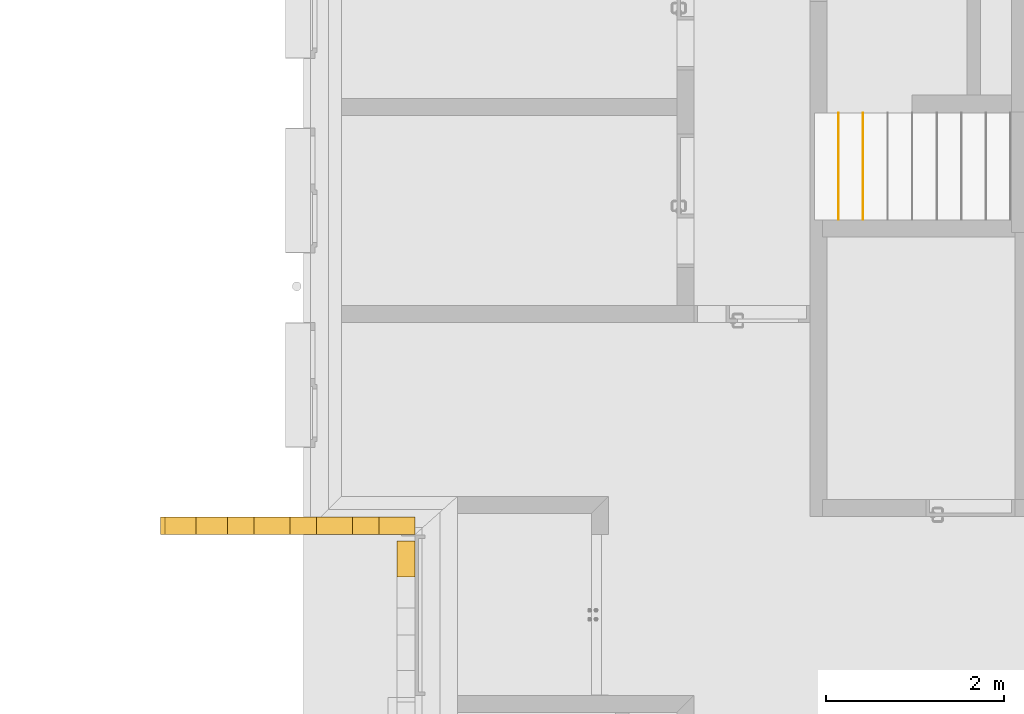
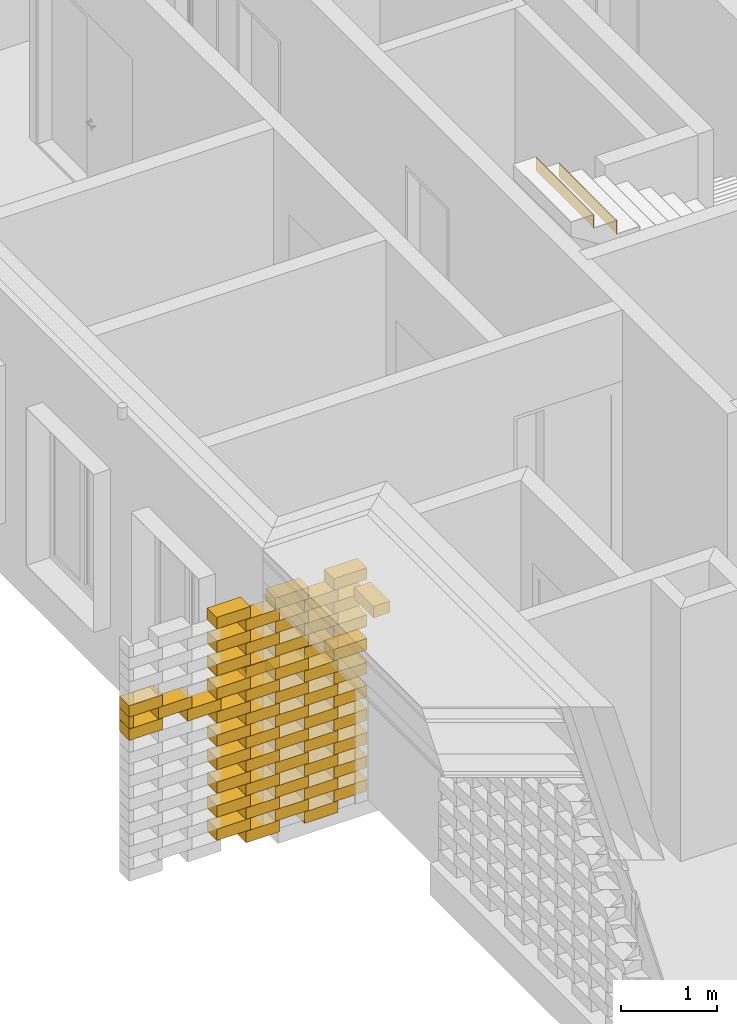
# One storey, part 59 of 62: 66 railings, 2 coverings, 1 element without a shape of its own.
"""IFC2X3 building model written with IfcOpenShell, lengths in millimetres."""

from ifc_helpers import new_model, entity, si_unit, converted_unit, derived_unit, money_unit, direction, frame, origin_with_axes, place, context, subcontext, project, spatial, polyline, outline, extrude, faceted_brep, material, type_object, element, aggregate, save


model = new_model("IFC2X3")

# Units and contexts
model_context = context("Model", 3, precision=0.01, world=origin_with_axes(), true_north=direction((0.0, 1.0)))
body_context = subcontext(model_context, "Body", "Model", "MODEL_VIEW")
ifc_project = project(units=[si_unit("LENGTHUNIT", "METRE", prefix="MILLI"), si_unit("AREAUNIT", "SQUARE_METRE"), si_unit("VOLUMEUNIT", "CUBIC_METRE"), converted_unit("PLANEANGLEUNIT", "DEGREE", entity("IfcPlaneAngleMeasure", 0.0174532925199), si_unit("PLANEANGLEUNIT", "RADIAN"), dimensions=[0, 0, 0, 0, 0, 0, 0]), si_unit("SOLIDANGLEUNIT", "STERADIAN"), money_unit("EUR"), converted_unit("TIMEUNIT", "Year", entity("IfcTimeMeasure", 31556926.0), si_unit("TIMEUNIT", "SECOND"), dimensions=[0, 0, 1, 0, 0, 0, 0]), si_unit("MASSUNIT", "GRAM", prefix="KILO"), si_unit("THERMODYNAMICTEMPERATUREUNIT", "DEGREE_CELSIUS"), si_unit("LUMINOUSINTENSITYUNIT", "LUMEN"), si_unit("ENERGYUNIT", "JOULE", prefix="MEGA"), derived_unit("THERMALCONDUCTANCEUNIT", [(si_unit("POWERUNIT", "WATT"), 1), (si_unit("LENGTHUNIT", "METRE"), -1), (si_unit("THERMODYNAMICTEMPERATUREUNIT", "KELVIN"), -1)]), derived_unit("SPECIFICHEATCAPACITYUNIT", [(si_unit("ENERGYUNIT", "JOULE"), 1), (si_unit("MASSUNIT", "GRAM", prefix="KILO"), -1), (si_unit("THERMODYNAMICTEMPERATUREUNIT", "KELVIN"), -1)]), derived_unit("MASSDENSITYUNIT", [(si_unit("MASSUNIT", "GRAM", prefix="KILO"), 1), (si_unit("VOLUMEUNIT", "CUBIC_METRE"), -1)])], contexts=[model_context])

# Site, building, storey
site_placement = place(None, origin_with_axes())
site = spatial("IfcSite", under=ifc_project, at=site_placement, Name="KIRDE 14, ELVA", CompositionType="ELEMENT")
building_placement = place(site_placement, origin_with_axes())
building = spatial("IfcBuilding", under=site, at=building_placement, Name="PPA ja Päästeameti ühishoone", CompositionType="ELEMENT")
storey_placement = place(building_placement, origin_with_axes())
storey = spatial("IfcBuildingStorey", under=building, at=storey_placement, Name="Esimene korrus", CompositionType="ELEMENT", Elevation=0.0)

# Railings
ifc_material_1 = material(Name="Air Space")
railing_type = type_object("IfcRailingType", Name="Air Space 200", PredefinedType="NOTDEFINED")
for number, where, z_axis, x_axis in (
    (1, (470.000147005, 11170.3967568, -45.0), (0.0, 0.0, 1.0), (-1.0, 2.32830643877e-09, 0.0)),
    (2, (120.000146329, 11170.3967568, 1590.0), (0.0, 0.0, 1.0), (-1.0, 0.0, 0.0)),
    (3, (470.000146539, 11170.3967568, 1440.0), (0.0, 0.0, 1.0), (-1.0, 2.32830643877e-09, 0.0)),
):
    element("IfcRailing", number, at=place(storey_placement, frame(where, z_axis=z_axis, x_axis=x_axis)), inside=storey, type_object=railing_type, material=ifc_material_1, Name="plokk", PredefinedType="NOTDEFINED", context=body_context, shape_type="SweptSolid", body=[
        extrude(outline(polyline([(0.0, 0.0), (399.999999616, 0.0), (399.999999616, 200.0), (0.0, 200.0), (0.0, 0.0)])), origin_with_axes(), (0.0, 0.0, 1.0), 145.0),
    ])
railing_1_placement = place(storey_placement, frame((-229.999853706, 11170.3967578, 2335.0), z_axis=(0.0, 0.0, 1.0), x_axis=(-1.0, -2.32830643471e-09, 0.0)))
element("IfcRailing", 4, at=railing_1_placement, inside=storey, type_object=railing_type, material=ifc_material_1, Name="plokk", PredefinedType="NOTDEFINED", context=body_context, shape_type="SweptSolid", body=[
    extrude(outline(polyline([(0.0, 0.0), (400.000000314, 0.0), (400.000000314, 200.0), (0.0, 200.0), (0.0, 0.0)])), origin_with_axes(), (0.0, 0.0, 1.0), 145.0),
])
railing_2_placement = place(storey_placement, frame((120.000146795, 11170.3967568, 1000.0), z_axis=(0.0, 0.0, 1.0), x_axis=(-1.0, 0.0, 0.0)))
element("IfcRailing", 5, at=railing_2_placement, inside=storey, type_object=railing_type, material=ifc_material_1, Name="plokk", PredefinedType="NOTDEFINED", context=body_context, shape_type="SweptSolid", body=[
    extrude(outline(polyline([(0.0, 0.0), (399.999999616, 0.0), (399.999999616, 200.0), (0.0, 200.0), (0.0, 0.0)])), origin_with_axes(), (0.0, 0.0, 1.0), 145.0),
])
for number, where, z_axis, x_axis in (
    (6, (-579.999852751, 11170.3967578, 400.0), (0.0, 0.0, 1.0), (-1.0, -2.32830643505e-09, 0.0)),
    (7, (-579.999852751, 11170.3967578, 1000.0), (0.0, 0.0, 1.0), (-1.0, -2.32830643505e-09, 0.0)),
    (8, (-579.999852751, 11170.3967578, 105.0), (0.0, 0.0, 1.0), (-1.0, -2.32830643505e-09, 0.0)),
    (9, (-579.999852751, 11170.3967578, 700.0), (0.0, 0.0, 1.0), (-1.0, -2.32830643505e-09, 0.0)),
):
    element("IfcRailing", number, at=place(storey_placement, frame(where, z_axis=z_axis, x_axis=x_axis)), inside=storey, type_object=railing_type, material=ifc_material_1, Name="plokk", PredefinedType="NOTDEFINED", context=body_context, shape_type="SweptSolid", body=[
        extrude(outline(polyline([(0.0, 0.0), (400.000000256, 0.0), (400.000000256, 200.0), (0.0, 200.0), (0.0, 0.0)])), origin_with_axes(), (0.0, 0.0, 1.0), 145.0),
    ])
for number, where, z_axis, x_axis in (
    (10, (470.000147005, 11170.3967568, 550.0), (0.0, 0.0, 1.0), (-1.0, 2.32830643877e-09, 0.0)),
    (11, (470.000147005, 11170.3967568, 850.0), (0.0, 0.0, 1.0), (-1.0, 2.32830643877e-09, 0.0)),
):
    element("IfcRailing", number, at=place(storey_placement, frame(where, z_axis=z_axis, x_axis=x_axis)), inside=storey, type_object=railing_type, material=ifc_material_1, Name="plokk", PredefinedType="NOTDEFINED", context=body_context, shape_type="SweptSolid", body=[
        extrude(outline(polyline([(0.0, 0.0), (399.999999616, 0.0), (399.999999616, 200.0), (0.0, 200.0), (0.0, 0.0)])), origin_with_axes(), (0.0, 0.0, 1.0), 145.0),
    ])
railing_3_placement = place(storey_placement, frame((-229.99985324, 11170.3967578, 850.0), z_axis=(0.0, 0.0, 1.0), x_axis=(-1.0, -2.32830643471e-09, 0.0)))
element("IfcRailing", 12, at=railing_3_placement, inside=storey, type_object=railing_type, material=ifc_material_1, Name="plokk", PredefinedType="NOTDEFINED", context=body_context, shape_type="SweptSolid", body=[
    extrude(outline(polyline([(0.0, 0.0), (400.000000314, 0.0), (400.000000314, 200.0), (0.0, 200.0), (0.0, 0.0)])), origin_with_axes(), (0.0, 0.0, 1.0), 145.0),
])
railing_4_placement = place(storey_placement, frame((820.000146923, 11170.3967578, 1000.0), z_axis=(0.0, 0.0, 1.0), x_axis=(-1.0, 0.0, 0.0)))
element("IfcRailing", 13, at=railing_4_placement, inside=storey, type_object=railing_type, material=ifc_material_1, Name="plokk", PredefinedType="NOTDEFINED", context=body_context, shape_type="SweptSolid", body=[
    extrude(outline(polyline([(0.0, 0.0), (400.000000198, 0.0), (400.000000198, 200.0), (0.0, 200.0), (0.0, 0.0)])), origin_with_axes(), (0.0, 0.0, 1.0), 145.0),
])
for number, where, z_axis, x_axis in (
    (14, (120.000146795, 11170.3967568, 700.0), (0.0, 0.0, 1.0), (-1.0, 0.0, 0.0)),
    (15, (120.000146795, 11170.3967568, 400.0), (0.0, 0.0, 1.0), (-1.0, 0.0, 0.0)),
):
    element("IfcRailing", number, at=place(storey_placement, frame(where, z_axis=z_axis, x_axis=x_axis)), inside=storey, type_object=railing_type, material=ifc_material_1, Name="plokk", PredefinedType="NOTDEFINED", context=body_context, shape_type="SweptSolid", body=[
        extrude(outline(polyline([(0.0, 0.0), (399.999999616, 0.0), (399.999999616, 200.0), (0.0, 200.0), (0.0, 0.0)])), origin_with_axes(), (0.0, 0.0, 1.0), 145.0),
    ])
railing_5_placement = place(storey_placement, frame((620.000146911, 10896.9244884, 2650.0), z_axis=(0.0, 0.0, 1.0), x_axis=(8.73114912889e-10, -1.0, 0.0)))
element("IfcRailing", 16, at=railing_5_placement, inside=storey, type_object=railing_type, material=ifc_material_1, Name="plokk", PredefinedType="NOTDEFINED", context=body_context, shape_type="SweptSolid", body=[
    extrude(outline(polyline([(0.0, 0.0), (400.000000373, 0.0), (400.000000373, 200.0), (0.0, 200.0), (0.0, 0.0)])), origin_with_axes(), (0.0, 0.0, 1.0), 145.0),
])
railing_6_placement = place(storey_placement, frame((-229.99985324, 11170.3967578, 550.0), z_axis=(0.0, 0.0, 1.0), x_axis=(-1.0, -2.32830643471e-09, 0.0)))
element("IfcRailing", 17, at=railing_6_placement, inside=storey, type_object=railing_type, material=ifc_material_1, Name="plokk", PredefinedType="NOTDEFINED", context=body_context, shape_type="SweptSolid", body=[
    extrude(outline(polyline([(0.0, 0.0), (400.000000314, 0.0), (400.000000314, 200.0), (0.0, 200.0), (0.0, 0.0)])), origin_with_axes(), (0.0, 0.0, 1.0), 145.0),
])
railing_7_placement = place(storey_placement, frame((820.000146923, 11170.3967578, 700.0), z_axis=(0.0, 0.0, 1.0), x_axis=(-1.0, 0.0, 0.0)))
element("IfcRailing", 18, at=railing_7_placement, inside=storey, type_object=railing_type, material=ifc_material_1, Name="plokk", PredefinedType="NOTDEFINED", context=body_context, shape_type="SweptSolid", body=[
    extrude(outline(polyline([(0.0, 0.0), (400.000000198, 0.0), (400.000000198, 200.0), (0.0, 200.0), (0.0, 0.0)])), origin_with_axes(), (0.0, 0.0, 1.0), 145.0),
])
for number, where, z_axis, x_axis in (
    (19, (-229.99985324, 11170.3967578, -45.0), (0.0, 0.0, 1.0), (-1.0, -2.32830643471e-09, 0.0)),
    (20, (-229.99985324, 11170.3967578, 250.0), (0.0, 0.0, 1.0), (-1.0, -2.32830643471e-09, 0.0)),
):
    element("IfcRailing", number, at=place(storey_placement, frame(where, z_axis=z_axis, x_axis=x_axis)), inside=storey, type_object=railing_type, material=ifc_material_1, Name="plokk", PredefinedType="NOTDEFINED", context=body_context, shape_type="SweptSolid", body=[
        extrude(outline(polyline([(0.0, 0.0), (400.000000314, 0.0), (400.000000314, 200.0), (0.0, 200.0), (0.0, 0.0)])), origin_with_axes(), (0.0, 0.0, 1.0), 145.0),
    ])
railing_8_placement = place(storey_placement, frame((820.000146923, 11170.3967578, 105.0), z_axis=(0.0, 0.0, 1.0), x_axis=(-1.0, 0.0, 0.0)))
element("IfcRailing", 21, at=railing_8_placement, inside=storey, type_object=railing_type, material=ifc_material_1, Name="plokk", PredefinedType="NOTDEFINED", context=body_context, shape_type="SweptSolid", body=[
    extrude(outline(polyline([(0.0, 0.0), (400.000000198, 0.0), (400.000000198, 200.0), (0.0, 200.0), (0.0, 0.0)])), origin_with_axes(), (0.0, 0.0, 1.0), 145.0),
])
for number, where, z_axis, x_axis in (
    (22, (470.000147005, 11170.3967568, 250.0), (0.0, 0.0, 1.0), (-1.0, 2.32830643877e-09, 0.0)),
    (23, (120.000146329, 11170.3967568, 1890.0), (0.0, 0.0, 1.0), (-1.0, 0.0, 0.0)),
):
    element("IfcRailing", number, at=place(storey_placement, frame(where, z_axis=z_axis, x_axis=x_axis)), inside=storey, type_object=railing_type, material=ifc_material_1, Name="plokk", PredefinedType="NOTDEFINED", context=body_context, shape_type="SweptSolid", body=[
        extrude(outline(polyline([(0.0, 0.0), (399.999999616, 0.0), (399.999999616, 200.0), (0.0, 200.0), (0.0, 0.0)])), origin_with_axes(), (0.0, 0.0, 1.0), 145.0),
    ])
railing_9_placement = place(storey_placement, frame((-229.999853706, 11170.3967578, 1740.0), z_axis=(0.0, 0.0, 1.0), x_axis=(-1.0, -2.32830643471e-09, 0.0)))
element("IfcRailing", 24, at=railing_9_placement, inside=storey, type_object=railing_type, material=ifc_material_1, Name="plokk", PredefinedType="NOTDEFINED", context=body_context, shape_type="SweptSolid", body=[
    extrude(outline(polyline([(0.0, 0.0), (400.000000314, 0.0), (400.000000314, 200.0), (0.0, 200.0), (0.0, 0.0)])), origin_with_axes(), (0.0, 0.0, 1.0), 145.0),
])
railing_10_placement = place(storey_placement, frame((820.000146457, 11170.3967578, 1890.0), z_axis=(0.0, 0.0, 1.0), x_axis=(-1.0, 0.0, 0.0)))
element("IfcRailing", 25, at=railing_10_placement, inside=storey, type_object=railing_type, material=ifc_material_1, Name="plokk", PredefinedType="NOTDEFINED", context=body_context, shape_type="SweptSolid", body=[
    extrude(outline(polyline([(0.0, 0.0), (400.000000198, 0.0), (400.000000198, 200.0), (0.0, 200.0), (0.0, 0.0)])), origin_with_axes(), (0.0, 0.0, 1.0), 145.0),
])
railing_11_placement = place(storey_placement, frame((-579.999853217, 11170.3967578, 1890.0), z_axis=(0.0, 0.0, 1.0), x_axis=(-1.0, -2.32830643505e-09, 0.0)))
element("IfcRailing", 26, at=railing_11_placement, inside=storey, type_object=railing_type, material=ifc_material_1, Name="plokk", PredefinedType="NOTDEFINED", context=body_context, shape_type="SweptSolid", body=[
    extrude(outline(polyline([(0.0, 0.0), (400.000000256, 0.0), (400.000000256, 200.0), (0.0, 200.0), (0.0, 0.0)])), origin_with_axes(), (0.0, 0.0, 1.0), 145.0),
])
railing_12_placement = place(storey_placement, frame((470.000146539, 11170.3967568, 2040.0), z_axis=(0.0, 0.0, 1.0), x_axis=(-1.0, 2.32830643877e-09, 0.0)))
element("IfcRailing", 27, at=railing_12_placement, inside=storey, type_object=railing_type, material=ifc_material_1, Name="plokk", PredefinedType="NOTDEFINED", context=body_context, shape_type="SweptSolid", body=[
    extrude(outline(polyline([(0.0, 0.0), (399.999999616, 0.0), (399.999999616, 200.0), (0.0, 200.0), (0.0, 0.0)])), origin_with_axes(), (0.0, 0.0, 1.0), 145.0),
])
railing_13_placement = place(storey_placement, frame((-229.999853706, 11170.3967578, 2040.0), z_axis=(0.0, 0.0, 1.0), x_axis=(-1.0, -2.32830643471e-09, 0.0)))
element("IfcRailing", 28, at=railing_13_placement, inside=storey, type_object=railing_type, material=ifc_material_1, Name="plokk", PredefinedType="NOTDEFINED", context=body_context, shape_type="SweptSolid", body=[
    extrude(outline(polyline([(0.0, 0.0), (400.000000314, 0.0), (400.000000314, 200.0), (0.0, 200.0), (0.0, 0.0)])), origin_with_axes(), (0.0, 0.0, 1.0), 145.0),
])
railing_14_placement = place(storey_placement, frame((820.000146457, 11170.3967578, 2190.0), z_axis=(0.0, 0.0, 1.0), x_axis=(-1.0, 0.0, 0.0)))
element("IfcRailing", 29, at=railing_14_placement, inside=storey, type_object=railing_type, material=ifc_material_1, Name="plokk", PredefinedType="NOTDEFINED", context=body_context, shape_type="SweptSolid", body=[
    extrude(outline(polyline([(0.0, 0.0), (400.000000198, 0.0), (400.000000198, 200.0), (0.0, 200.0), (0.0, 0.0)])), origin_with_axes(), (0.0, 0.0, 1.0), 145.0),
])
railing_15_placement = place(storey_placement, frame((-579.999853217, 11170.3967578, 2190.0), z_axis=(0.0, 0.0, 1.0), x_axis=(-1.0, -2.32830643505e-09, 0.0)))
element("IfcRailing", 30, at=railing_15_placement, inside=storey, type_object=railing_type, material=ifc_material_1, Name="plokk", PredefinedType="NOTDEFINED", context=body_context, shape_type="SweptSolid", body=[
    extrude(outline(polyline([(0.0, 0.0), (400.000000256, 0.0), (400.000000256, 200.0), (0.0, 200.0), (0.0, 0.0)])), origin_with_axes(), (0.0, 0.0, 1.0), 145.0),
])
railing_16_placement = place(storey_placement, frame((470.000146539, 11170.3967568, 1145.0), z_axis=(0.0, 0.0, 1.0), x_axis=(-1.0, 2.32830643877e-09, 0.0)))
element("IfcRailing", 31, at=railing_16_placement, inside=storey, type_object=railing_type, material=ifc_material_1, Name="plokk", PredefinedType="NOTDEFINED", context=body_context, shape_type="SweptSolid", body=[
    extrude(outline(polyline([(0.0, 0.0), (399.999999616, 0.0), (399.999999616, 200.0), (0.0, 200.0), (0.0, 0.0)])), origin_with_axes(), (0.0, 0.0, 1.0), 145.0),
])
railing_17_placement = place(storey_placement, frame((-229.999853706, 11170.3967578, 1145.0), z_axis=(0.0, 0.0, 1.0), x_axis=(-1.0, -2.32830643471e-09, 0.0)))
element("IfcRailing", 32, at=railing_17_placement, inside=storey, type_object=railing_type, material=ifc_material_1, Name="plokk", PredefinedType="NOTDEFINED", context=body_context, shape_type="SweptSolid", body=[
    extrude(outline(polyline([(0.0, 0.0), (400.000000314, 0.0), (400.000000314, 200.0), (0.0, 200.0), (0.0, 0.0)])), origin_with_axes(), (0.0, 0.0, 1.0), 145.0),
])
railing_18_placement = place(storey_placement, frame((820.000146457, 11170.3967578, 1295.0), z_axis=(0.0, 0.0, 1.0), x_axis=(-1.0, 0.0, 0.0)))
element("IfcRailing", 33, at=railing_18_placement, inside=storey, type_object=railing_type, material=ifc_material_1, Name="plokk", PredefinedType="NOTDEFINED", context=body_context, shape_type="SweptSolid", body=[
    extrude(outline(polyline([(0.0, 0.0), (400.000000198, 0.0), (400.000000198, 200.0), (0.0, 200.0), (0.0, 0.0)])), origin_with_axes(), (0.0, 0.0, 1.0), 145.0),
])
for number, where, z_axis, x_axis in (
    (34, (120.000146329, 11170.3967568, 1295.0), (0.0, 0.0, 1.0), (-1.0, 0.0, 0.0)),
    (35, (120.000146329, 11170.3967568, 2190.0), (0.0, 0.0, 1.0), (-1.0, 0.0, 0.0)),
    (36, (120.000146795, 11170.3967568, 105.0), (0.0, 0.0, 1.0), (-1.0, 0.0, 0.0)),
):
    element("IfcRailing", number, at=place(storey_placement, frame(where, z_axis=z_axis, x_axis=x_axis)), inside=storey, type_object=railing_type, material=ifc_material_1, Name="plokk", PredefinedType="NOTDEFINED", context=body_context, shape_type="SweptSolid", body=[
        extrude(outline(polyline([(0.0, 0.0), (399.999999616, 0.0), (399.999999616, 200.0), (0.0, 200.0), (0.0, 0.0)])), origin_with_axes(), (0.0, 0.0, 1.0), 145.0),
    ])
railing_19_placement = place(storey_placement, frame((820.000146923, 11170.3967578, 400.0), z_axis=(0.0, 0.0, 1.0), x_axis=(-1.0, 0.0, 0.0)))
element("IfcRailing", 37, at=railing_19_placement, inside=storey, type_object=railing_type, material=ifc_material_1, Name="plokk", PredefinedType="NOTDEFINED", context=body_context, shape_type="SweptSolid", body=[
    extrude(outline(polyline([(0.0, 0.0), (400.000000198, 0.0), (400.000000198, 200.0), (0.0, 200.0), (0.0, 0.0)])), origin_with_axes(), (0.0, 0.0, 1.0), 145.0),
])
railing_20_placement = place(storey_placement, frame((-579.999853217, 11170.3967578, 1295.0), z_axis=(0.0, 0.0, 1.0), x_axis=(-1.0, -2.32830643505e-09, 0.0)))
element("IfcRailing", 38, at=railing_20_placement, inside=storey, type_object=railing_type, material=ifc_material_1, Name="plokk", PredefinedType="NOTDEFINED", context=body_context, shape_type="SweptSolid", body=[
    extrude(outline(polyline([(0.0, 0.0), (400.000000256, 0.0), (400.000000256, 200.0), (0.0, 200.0), (0.0, 0.0)])), origin_with_axes(), (0.0, 0.0, 1.0), 145.0),
])
railing_21_placement = place(storey_placement, frame((470.000146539, 11170.3967568, 2035.0), z_axis=(0.0, 0.0, 1.0), x_axis=(-1.0, 2.32830643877e-09, 0.0)))
element("IfcRailing", 39, at=railing_21_placement, inside=storey, type_object=railing_type, material=ifc_material_1, Name="plokk", PredefinedType="NOTDEFINED", context=body_context, shape_type="SweptSolid", body=[
    extrude(outline(polyline([(0.0, 0.0), (399.999999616, 0.0), (399.999999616, 200.0), (0.0, 200.0), (0.0, 0.0)])), origin_with_axes(), (0.0, 0.0, 1.0), 145.0),
])
railing_22_placement = place(storey_placement, frame((-229.999853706, 11170.3967578, 2035.0), z_axis=(0.0, 0.0, 1.0), x_axis=(-1.0, -2.32830643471e-09, 0.0)))
element("IfcRailing", 40, at=railing_22_placement, inside=storey, type_object=railing_type, material=ifc_material_1, Name="plokk", PredefinedType="NOTDEFINED", context=body_context, shape_type="SweptSolid", body=[
    extrude(outline(polyline([(0.0, 0.0), (400.000000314, 0.0), (400.000000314, 200.0), (0.0, 200.0), (0.0, 0.0)])), origin_with_axes(), (0.0, 0.0, 1.0), 145.0),
])
railing_23_placement = place(storey_placement, frame((820.000146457, 11170.3967578, 2185.0), z_axis=(0.0, 0.0, 1.0), x_axis=(-1.0, 0.0, 0.0)))
element("IfcRailing", 41, at=railing_23_placement, inside=storey, type_object=railing_type, material=ifc_material_1, Name="plokk", PredefinedType="NOTDEFINED", context=body_context, shape_type="SweptSolid", body=[
    extrude(outline(polyline([(0.0, 0.0), (400.000000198, 0.0), (400.000000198, 200.0), (0.0, 200.0), (0.0, 0.0)])), origin_with_axes(), (0.0, 0.0, 1.0), 145.0),
])
railing_24_placement = place(storey_placement, frame((120.000146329, 11170.3967568, 2185.0), z_axis=(0.0, 0.0, 1.0), x_axis=(-1.0, 0.0, 0.0)))
element("IfcRailing", 42, at=railing_24_placement, inside=storey, type_object=railing_type, material=ifc_material_1, Name="plokk", PredefinedType="NOTDEFINED", context=body_context, shape_type="SweptSolid", body=[
    extrude(outline(polyline([(0.0, 0.0), (399.999999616, 0.0), (399.999999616, 200.0), (0.0, 200.0), (0.0, 0.0)])), origin_with_axes(), (0.0, 0.0, 1.0), 145.0),
])
railing_25_placement = place(storey_placement, frame((-579.999853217, 11170.3967578, 2185.0), z_axis=(0.0, 0.0, 1.0), x_axis=(-1.0, -2.32830643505e-09, 0.0)))
element("IfcRailing", 43, at=railing_25_placement, inside=storey, type_object=railing_type, material=ifc_material_1, Name="plokk", PredefinedType="NOTDEFINED", context=body_context, shape_type="SweptSolid", body=[
    extrude(outline(polyline([(0.0, 0.0), (400.000000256, 0.0), (400.000000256, 200.0), (0.0, 200.0), (0.0, 0.0)])), origin_with_axes(), (0.0, 0.0, 1.0), 145.0),
])
railing_26_placement = place(storey_placement, frame((470.000146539, 11170.3967568, 2335.0), z_axis=(0.0, 0.0, 1.0), x_axis=(-1.0, 2.32830643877e-09, 0.0)))
element("IfcRailing", 44, at=railing_26_placement, inside=storey, type_object=railing_type, material=ifc_material_1, Name="plokk", PredefinedType="NOTDEFINED", context=body_context, shape_type="SweptSolid", body=[
    extrude(outline(polyline([(0.0, 0.0), (399.999999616, 0.0), (399.999999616, 200.0), (0.0, 200.0), (0.0, 0.0)])), origin_with_axes(), (0.0, 0.0, 1.0), 145.0),
])
railing_27_placement = place(storey_placement, frame((820.000146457, 11170.3967578, 2485.0), z_axis=(0.0, 0.0, 1.0), x_axis=(-1.0, 0.0, 0.0)))
element("IfcRailing", 45, at=railing_27_placement, inside=storey, type_object=railing_type, material=ifc_material_1, Name="plokk", PredefinedType="NOTDEFINED", context=body_context, shape_type="SweptSolid", body=[
    extrude(outline(polyline([(0.0, 0.0), (400.000000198, 0.0), (400.000000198, 200.0), (0.0, 200.0), (0.0, 0.0)])), origin_with_axes(), (0.0, 0.0, 1.0), 145.0),
])
railing_28_placement = place(storey_placement, frame((120.000146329, 11170.3967568, 2485.0), z_axis=(0.0, 0.0, 1.0), x_axis=(-1.0, 0.0, 0.0)))
element("IfcRailing", 46, at=railing_28_placement, inside=storey, type_object=railing_type, material=ifc_material_1, Name="plokk", PredefinedType="NOTDEFINED", context=body_context, shape_type="SweptSolid", body=[
    extrude(outline(polyline([(0.0, 0.0), (399.999999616, 0.0), (399.999999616, 200.0), (0.0, 200.0), (0.0, 0.0)])), origin_with_axes(), (0.0, 0.0, 1.0), 145.0),
])
railing_29_placement = place(storey_placement, frame((-579.999853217, 11170.3967578, 2485.0), z_axis=(0.0, 0.0, 1.0), x_axis=(-1.0, -2.32830643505e-09, 0.0)))
element("IfcRailing", 47, at=railing_29_placement, inside=storey, type_object=railing_type, material=ifc_material_1, Name="plokk", PredefinedType="NOTDEFINED", context=body_context, shape_type="SweptSolid", body=[
    extrude(outline(polyline([(0.0, 0.0), (400.000000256, 0.0), (400.000000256, 200.0), (0.0, 200.0), (0.0, 0.0)])), origin_with_axes(), (0.0, 0.0, 1.0), 145.0),
])
railing_30_placement = place(storey_placement, frame((470.000146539, 11170.3967568, 2635.0), z_axis=(0.0, 0.0, 1.0), x_axis=(-1.0, 2.32830643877e-09, 0.0)))
element("IfcRailing", 48, at=railing_30_placement, inside=storey, type_object=railing_type, material=ifc_material_1, Name="plokk", PredefinedType="NOTDEFINED", context=body_context, shape_type="SweptSolid", body=[
    extrude(outline(polyline([(0.0, 0.0), (399.999999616, 0.0), (399.999999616, 200.0), (0.0, 200.0), (0.0, 0.0)])), origin_with_axes(), (0.0, 0.0, 1.0), 145.0),
])
railing_31_placement = place(storey_placement, frame((-229.999853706, 11170.3967578, 2635.0), z_axis=(0.0, 0.0, 1.0), x_axis=(-1.0, -2.32830643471e-09, 0.0)))
element("IfcRailing", 49, at=railing_31_placement, inside=storey, type_object=railing_type, material=ifc_material_1, Name="plokk", PredefinedType="NOTDEFINED", context=body_context, shape_type="SweptSolid", body=[
    extrude(outline(polyline([(0.0, 0.0), (400.000000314, 0.0), (400.000000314, 200.0), (0.0, 200.0), (0.0, 0.0)])), origin_with_axes(), (0.0, 0.0, 1.0), 145.0),
])
railing_32_placement = place(storey_placement, frame((820.000146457, 11170.3967578, 2785.0), z_axis=(0.0, 0.0, 1.0), x_axis=(-1.0, 0.0, 0.0)))
element("IfcRailing", 50, at=railing_32_placement, inside=storey, type_object=railing_type, material=ifc_material_1, Name="plokk", PredefinedType="NOTDEFINED", context=body_context, shape_type="SweptSolid", body=[
    extrude(outline(polyline([(0.0, 0.0), (400.000000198, 0.0), (400.000000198, 200.0), (0.0, 200.0), (0.0, 0.0)])), origin_with_axes(), (0.0, 0.0, 1.0), 145.0),
])
railing_33_placement = place(storey_placement, frame((120.000146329, 11170.3967568, 2785.0), z_axis=(0.0, 0.0, 1.0), x_axis=(-1.0, 0.0, 0.0)))
element("IfcRailing", 51, at=railing_33_placement, inside=storey, type_object=railing_type, material=ifc_material_1, Name="plokk", PredefinedType="NOTDEFINED", context=body_context, shape_type="SweptSolid", body=[
    extrude(outline(polyline([(0.0, 0.0), (399.999999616, 0.0), (399.999999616, 200.0), (0.0, 200.0), (0.0, 0.0)])), origin_with_axes(), (0.0, 0.0, 1.0), 145.0),
])
for number, where, z_axis, x_axis in (
    (52, (-579.999853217, 11170.3967578, 2785.0), (0.0, 0.0, 1.0), (-1.0, -2.32830643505e-09, 0.0)),
    (53, (-1629.9998535, 11170.3967578, 2035.0), (0.0, 0.0, 1.0), (-1.0, -2.32830643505e-09, 0.0)),
):
    element("IfcRailing", number, at=place(storey_placement, frame(where, z_axis=z_axis, x_axis=x_axis)), inside=storey, type_object=railing_type, material=ifc_material_1, Name="plokk", PredefinedType="NOTDEFINED", context=body_context, shape_type="SweptSolid", body=[
        extrude(outline(polyline([(0.0, 0.0), (400.000000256, 0.0), (400.000000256, 200.0), (0.0, 200.0), (0.0, 0.0)])), origin_with_axes(), (0.0, 0.0, 1.0), 145.0),
    ])
railing_34_placement = place(storey_placement, frame((470.000146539, 11170.3967568, 1740.0), z_axis=(0.0, 0.0, 1.0), x_axis=(-1.0, 2.32830643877e-09, 0.0)))
element("IfcRailing", 54, at=railing_34_placement, inside=storey, type_object=railing_type, material=ifc_material_1, Name="plokk", PredefinedType="NOTDEFINED", context=body_context, shape_type="SweptSolid", body=[
    extrude(outline(polyline([(0.0, 0.0), (399.999999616, 0.0), (399.999999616, 200.0), (0.0, 200.0), (0.0, 0.0)])), origin_with_axes(), (0.0, 0.0, 1.0), 145.0),
])
railing_35_placement = place(storey_placement, frame((-229.999853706, 11170.3967578, 1740.0), z_axis=(0.0, 0.0, 1.0), x_axis=(-1.0, -2.32830643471e-09, 0.0)))
element("IfcRailing", 55, at=railing_35_placement, inside=storey, type_object=railing_type, material=ifc_material_1, Name="plokk", PredefinedType="NOTDEFINED", context=body_context, shape_type="SweptSolid", body=[
    extrude(outline(polyline([(0.0, 0.0), (400.000000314, 0.0), (400.000000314, 200.0), (0.0, 200.0), (0.0, 0.0)])), origin_with_axes(), (0.0, 0.0, 1.0), 145.0),
])
railing_36_placement = place(storey_placement, frame((820.000146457, 11170.3967578, 1890.0), z_axis=(0.0, 0.0, 1.0), x_axis=(-1.0, 0.0, 0.0)))
element("IfcRailing", 56, at=railing_36_placement, inside=storey, type_object=railing_type, material=ifc_material_1, Name="plokk", PredefinedType="NOTDEFINED", context=body_context, shape_type="SweptSolid", body=[
    extrude(outline(polyline([(0.0, 0.0), (400.000000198, 0.0), (400.000000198, 200.0), (0.0, 200.0), (0.0, 0.0)])), origin_with_axes(), (0.0, 0.0, 1.0), 145.0),
])
railing_37_placement = place(storey_placement, frame((120.000146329, 11170.3967568, 1890.0), z_axis=(0.0, 0.0, 1.0), x_axis=(-1.0, 0.0, 0.0)))
element("IfcRailing", 57, at=railing_37_placement, inside=storey, type_object=railing_type, material=ifc_material_1, Name="plokk", PredefinedType="NOTDEFINED", context=body_context, shape_type="SweptSolid", body=[
    extrude(outline(polyline([(0.0, 0.0), (399.999999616, 0.0), (399.999999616, 200.0), (0.0, 200.0), (0.0, 0.0)])), origin_with_axes(), (0.0, 0.0, 1.0), 145.0),
])
railing_38_placement = place(storey_placement, frame((-579.999853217, 11170.3967578, 1890.0), z_axis=(0.0, 0.0, 1.0), x_axis=(-1.0, -2.32830643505e-09, 0.0)))
element("IfcRailing", 58, at=railing_38_placement, inside=storey, type_object=railing_type, material=ifc_material_1, Name="plokk", PredefinedType="NOTDEFINED", context=body_context, shape_type="SweptSolid", body=[
    extrude(outline(polyline([(0.0, 0.0), (400.000000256, 0.0), (400.000000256, 200.0), (0.0, 200.0), (0.0, 0.0)])), origin_with_axes(), (0.0, 0.0, 1.0), 145.0),
])
railing_39_placement = place(storey_placement, frame((-1279.99985346, 11170.3967568, 1890.0), z_axis=(0.0, 0.0, 1.0), x_axis=(-1.0, -2.32830643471e-09, 0.0)))
element("IfcRailing", 59, at=railing_39_placement, inside=storey, type_object=railing_type, material=ifc_material_1, Name="plokk", PredefinedType="NOTDEFINED", context=body_context, shape_type="SweptSolid", body=[
    extrude(outline(polyline([(0.0, 0.0), (400.000000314, 0.0), (400.000000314, 200.0), (0.0, 200.0), (0.0, 0.0)])), origin_with_axes(), (0.0, 0.0, 1.0), 145.0),
])
railing_40_placement = place(storey_placement, frame((-1979.99985371, 11170.3967568, 1890.0), z_axis=(0.0, 0.0, 1.0), x_axis=(-1.0, 0.0, 0.0)))
element("IfcRailing", 60, at=railing_40_placement, inside=storey, type_object=railing_type, material=ifc_material_1, Name="plokk", PredefinedType="NOTDEFINED", context=body_context, shape_type="SweptSolid", body=[
    extrude(outline(polyline([(0.0, 0.0), (50.0000000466, 0.0), (50.0000000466, 200.0), (0.0, 200.0), (0.0, 0.0)])), origin_with_axes(), (0.0, 0.0, 1.0), 145.0),
])
railing_41_placement = place(storey_placement, frame((-929.99985395, 11170.3967578, 1740.0), z_axis=(0.0, 0.0, 1.0), x_axis=(-1.0, -2.32830643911e-09, 0.0)))
element("IfcRailing", 61, at=railing_41_placement, inside=storey, type_object=railing_type, material=ifc_material_1, Name="plokk", PredefinedType="NOTDEFINED", context=body_context, shape_type="SweptSolid", body=[
    extrude(outline(polyline([(0.0, 0.0), (399.999999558, 0.0), (399.999999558, 200.0), (0.0, 200.0), (0.0, 0.0)])), origin_with_axes(), (0.0, 0.0, 1.0), 145.0),
])
railing_42_placement = place(storey_placement, frame((-1629.9998535, 11170.3967578, 1740.0), z_axis=(0.0, 0.0, 1.0), x_axis=(-1.0, -2.32830643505e-09, 0.0)))
element("IfcRailing", 62, at=railing_42_placement, inside=storey, type_object=railing_type, material=ifc_material_1, Name="plokk", PredefinedType="NOTDEFINED", context=body_context, shape_type="SweptSolid", body=[
    extrude(outline(polyline([(0.0, 0.0), (400.000000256, 0.0), (400.000000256, 200.0), (0.0, 200.0), (0.0, 0.0)])), origin_with_axes(), (0.0, 0.0, 1.0), 145.0),
])
railing_43_placement = place(storey_placement, frame((-229.999853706, 11170.3967578, 1440.0), z_axis=(0.0, 0.0, 1.0), x_axis=(-1.0, -2.32830643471e-09, 0.0)))
element("IfcRailing", 63, at=railing_43_placement, inside=storey, type_object=railing_type, material=ifc_material_1, Name="plokk", PredefinedType="NOTDEFINED", context=body_context, shape_type="SweptSolid", body=[
    extrude(outline(polyline([(0.0, 0.0), (400.000000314, 0.0), (400.000000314, 200.0), (0.0, 200.0), (0.0, 0.0)])), origin_with_axes(), (0.0, 0.0, 1.0), 145.0),
])
railing_44_placement = place(storey_placement, frame((470.000146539, 11170.3967568, 1740.0), z_axis=(0.0, 0.0, 1.0), x_axis=(-1.0, 2.32830643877e-09, 0.0)))
element("IfcRailing", 64, at=railing_44_placement, inside=storey, type_object=railing_type, material=ifc_material_1, Name="plokk", PredefinedType="NOTDEFINED", context=body_context, shape_type="SweptSolid", body=[
    extrude(outline(polyline([(0.0, 0.0), (399.999999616, 0.0), (399.999999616, 200.0), (0.0, 200.0), (0.0, 0.0)])), origin_with_axes(), (0.0, 0.0, 1.0), 145.0),
])
railing_45_placement = place(storey_placement, frame((-579.999853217, 11170.3967578, 1590.0), z_axis=(0.0, 0.0, 1.0), x_axis=(-1.0, -2.32830643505e-09, 0.0)))
element("IfcRailing", 65, at=railing_45_placement, inside=storey, type_object=railing_type, material=ifc_material_1, Name="plokk", PredefinedType="NOTDEFINED", context=body_context, shape_type="SweptSolid", body=[
    extrude(outline(polyline([(0.0, 0.0), (400.000000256, 0.0), (400.000000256, 200.0), (0.0, 200.0), (0.0, 0.0)])), origin_with_axes(), (0.0, 0.0, 1.0), 145.0),
])
railing_46_placement = place(storey_placement, frame((820.000146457, 11170.3967578, 1590.0), z_axis=(0.0, 0.0, 1.0), x_axis=(-1.0, 0.0, 0.0)))
element("IfcRailing", 66, at=railing_46_placement, inside=storey, type_object=railing_type, material=ifc_material_1, Name="plokk", PredefinedType="NOTDEFINED", context=body_context, shape_type="SweptSolid", body=[
    extrude(outline(polyline([(0.0, 0.0), (400.000000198, 0.0), (400.000000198, 200.0), (0.0, 200.0), (0.0, 0.0)])), origin_with_axes(), (0.0, 0.0, 1.0), 145.0),
])

# Stair, coverings
stair_placement = place(storey_placement, frame((7700.00010085, 18999.9988138, 0.0), z_axis=(0.0, 0.0, 1.0), x_axis=(0.845542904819, 0.533907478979, 0.0)))
stair = element("IfcStair", 67, at=stair_placement, inside=storey, Name="TREPP", ShapeType="NOTDEFINED")
ifc_material_2 = material(Name="SV-02_Puit - Põrand")
covering_type = type_object("IfcCoveringType", Name="IfcCovering", PredefinedType="FLOORING")
covering_1_placement = place(stair_placement, frame((-3646.49353025, -2309.88854261, 3423.57142857), z_axis=(0.0, 0.0, 1.0), x_axis=(0.533907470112, 0.845542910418, 0.0)))
covering_1 = element("IfcCovering", 68, at=covering_1_placement, type_object=covering_type, material=ifc_material_2, Name="TV TÕUS - 019", PredefinedType="FLOORING", context=body_context, shape_type="Brep", body=[
    faceted_brep([(600.0, 0.0, 0.0), (600.0, 5.0, 0.0), (-600.0, 5.0, 0.0), (-600.0, 0.0, 0.0), (600.0, 0.0, -166.428571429), (600.0, 5.0, -166.428571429), (-600.0, 5.0, -166.428571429), (-600.0, 0.0, -166.428571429)], [[[0, 1, 2, 3]], [[0, 4, 5, 1]], [[1, 5, 6, 2]], [[3, 2, 6, 7]], [[4, 0, 3, 7]], [[5, 4, 7, 6]]]),
])
covering_2_placement = place(stair_placement, frame((-3879.01783178, -2163.06398759, 3595.0), z_axis=(0.0, 0.0, 1.0), x_axis=(0.533907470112, 0.845542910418, 0.0)))
covering_2 = element("IfcCovering", 69, at=covering_2_placement, type_object=covering_type, material=ifc_material_2, Name="TV TÕUS - 020", PredefinedType="FLOORING", context=body_context, shape_type="Brep", body=[
    faceted_brep([(600.0, 0.0, 0.0), (600.0, 5.0, 0.0), (-600.0, 5.0, 0.0), (-600.0, 0.0, 0.0), (600.0, 0.0, -166.428571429), (600.0, 5.0, -166.428571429), (-600.0, 5.0, -166.428571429), (-600.0, 0.0, -166.428571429)], [[[0, 1, 2, 3]], [[0, 4, 5, 1]], [[1, 5, 6, 2]], [[3, 2, 6, 7]], [[4, 0, 3, 7]], [[5, 4, 7, 6]]]),
])
aggregate(stair, [covering_1, covering_2])

save(model, "model.ifc")
